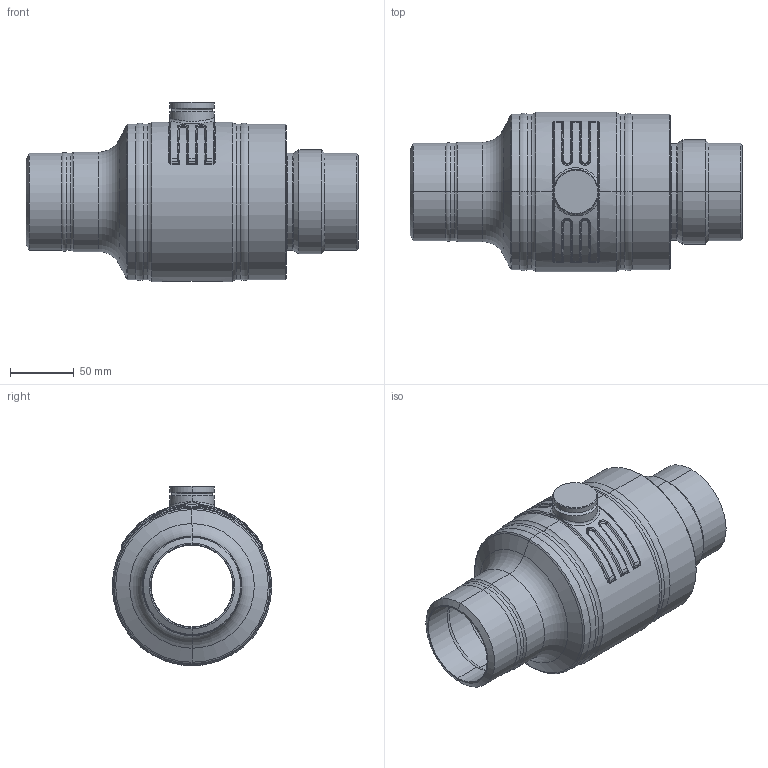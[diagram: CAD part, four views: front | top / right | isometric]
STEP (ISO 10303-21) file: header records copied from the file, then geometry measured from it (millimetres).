
FILE_DESCRIPTION((''),'2;1');
FILE_NAME('KHMO-AB-V-ISKT-065P040','2025-02-11T14:30:02',('jeitlers'),('KLINGER'),'CREO PARAMETRIC BY PTC INC, 2023014','CREO PARAMETRIC BY PTC INC, 2023014','');
FILE_SCHEMA(('CONFIG_CONTROL_DESIGN'));
Length unit declared in the file: millimetre
Products named in the file (1): KHMO-AB-V-ISKT-065P040
Bounding box: 260 x 125 x 140.5 mm (x, y, z)
Volume: 1148470.7 mm3; surface area: 245222.1 mm2
Topology: 4 solids, 4 shells, 463 faces, 999 edges, 560 vertices
Faces by surface type: cylinder 127, torus 120, plane 72, bspline 72, cone 70, sphere 2
Entity records: 21261 total; most frequent: CARTESIAN_POINT 11401, DIRECTION 2192, ORIENTED_EDGE 1994, EDGE_CURVE 997, AXIS2_PLACEMENT_3D 966, CIRCLE 575, VERTEX_POINT 560, EDGE_LOOP 493
